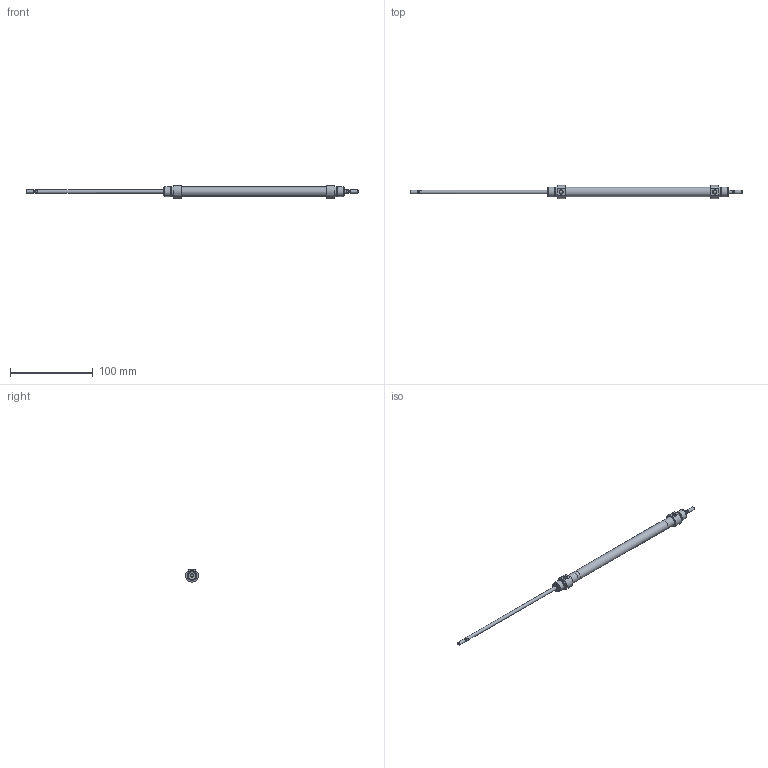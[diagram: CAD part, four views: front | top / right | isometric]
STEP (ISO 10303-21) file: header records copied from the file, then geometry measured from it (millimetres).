
FILE_DESCRIPTION( ( 'STEP AP203' ), '1' );
FILE_NAME( '//expscmdclustefs.cadenas.external/client_exchange/iodir/jobs/output/wkb68273255_no0/STEP/M101-010-0150--__0__2_03.stp', ' ', ( ' ' ), ( ' ' ), 'PSStep 15.0.47', 'PARTsolutions', ' ' );
FILE_SCHEMA( ( 'CONFIG_CONTROL_DESIGN' ) );
Length unit declared in the file: millimetre
Products named in the file (3): M101-010-0150-- [0]; HI_M101-010-0150---[0]-z; HI_M101-010-0150---[0]-k
Assembly tree (2 placements, depth 2):
  M101-010-0150-- [0]
    HI_M101-010-0150---[0]-z
    HI_M101-010-0150---[0]-k
Bounding box: 402 x 15.77 x 14.87 mm (x, y, z)
Volume: 16240.8 mm3; surface area: 19843.5 mm2
Topology: 2 solids, 2 shells, 71 faces, 145 edges, 88 vertices
Faces by surface type: plane 32, cylinder 23, cone 14, torus 2
Full cylindrical faces by diameter (mm): 3.141 x2, 4 x6, 4.134 x2, 10 x2, 10.466 x4, 11.3 x1, 12 x4
Entity records: 1838 total; most frequent: CARTESIAN_POINT 358, DIRECTION 312, ORIENTED_EDGE 212, AXIS2_PLACEMENT_3D 140, EDGE_LOOP 120, EDGE_CURVE 106, FACE_OUTER_BOUND 94, VERTEX_POINT 82
